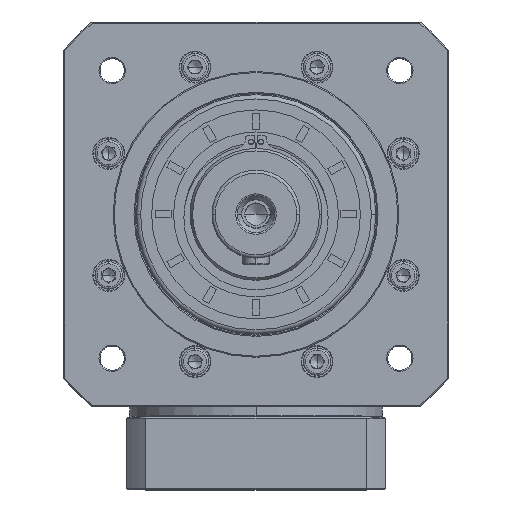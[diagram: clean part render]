
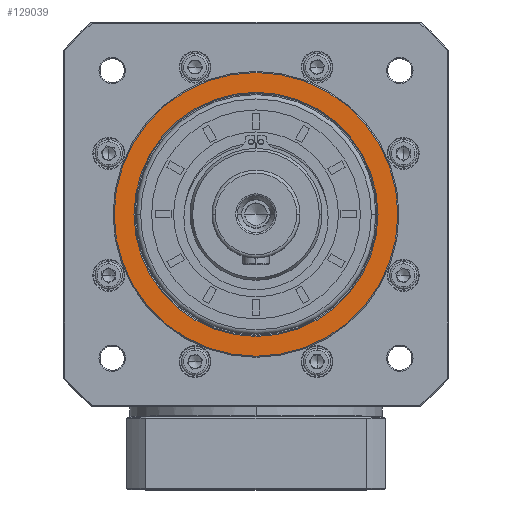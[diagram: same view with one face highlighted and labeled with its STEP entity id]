
A CAD part, top view. The second image highlights one B-rep face of the part: STEP entity #129039.
In plain terms, the highlighted planar face has unit normal (0, 0, 1).
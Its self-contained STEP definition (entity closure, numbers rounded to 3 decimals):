
#7995 = ORIENTED_EDGE ( 'NONE', *, *, #59629, .F. ) ;
#9371 = DIRECTION ( 'NONE',  ( 0., 0., -1. ) ) ;
#9806 = CARTESIAN_POINT ( 'NONE',  ( -123.259, -41.632, 242.546 ) ) ;
#12704 = DIRECTION ( 'NONE',  ( 0., 0., -1. ) ) ;
#18328 = CIRCLE ( 'NONE', #86836, 64.5 ) ;
#18888 = ORIENTED_EDGE ( 'NONE', *, *, #87164, .F. ) ;
#19539 = EDGE_CURVE ( 'NONE', #80171, #132351, #75513, .T. ) ;
#22973 = DIRECTION ( 'NONE',  ( 0., 0., 1. ) ) ;
#32686 = CARTESIAN_POINT ( 'NONE',  ( -243.259, -41.632, 242.546 ) ) ;
#34499 = DIRECTION ( 'NONE',  ( -1., 0., 0. ) ) ;
#36247 = CARTESIAN_POINT ( 'NONE',  ( -178.759, -41.632, 242.546 ) ) ;
#43133 = AXIS2_PLACEMENT_3D ( 'NONE', #131444, #94843, #107428 ) ;
#45481 = CARTESIAN_POINT ( 'NONE',  ( -178.759, -41.632, 242.546 ) ) ;
#48271 = DIRECTION ( 'NONE',  ( 0., 0., -1. ) ) ;
#55407 = AXIS2_PLACEMENT_3D ( 'NONE', #71535, #22973, #34499 ) ;
#59629 = EDGE_CURVE ( 'NONE', #138721, #156912, #18328, .T. ) ;
#71535 = CARTESIAN_POINT ( 'NONE',  ( -178.759, -41.632, 242.546 ) ) ;
#72221 = CARTESIAN_POINT ( 'NONE',  ( -178.759, -41.632, 242.546 ) ) ;
#75513 = CIRCLE ( 'NONE', #95538, 55.5 ) ;
#80171 = VERTEX_POINT ( 'NONE', #108026 ) ;
#84585 = PLANE ( 'NONE',  #55407 ) ;
#86836 = AXIS2_PLACEMENT_3D ( 'NONE', #72221, #48271, #160144 ) ;
#87164 = EDGE_CURVE ( 'NONE', #156912, #138721, #133867, .T. ) ;
#88464 = ORIENTED_EDGE ( 'NONE', *, *, #19539, .T. ) ;
#91635 = FACE_OUTER_BOUND ( 'NONE', #98615, .T. ) ;
#94843 = DIRECTION ( 'NONE',  ( 0., 0., -1. ) ) ;
#95538 = AXIS2_PLACEMENT_3D ( 'NONE', #36247, #12704, #123516 ) ;
#98615 = EDGE_LOOP ( 'NONE', ( #18888, #7995 ) ) ;
#104668 = EDGE_LOOP ( 'NONE', ( #88464, #154301 ) ) ;
#107428 = DIRECTION ( 'NONE',  ( 1., 0., 0. ) ) ;
#108026 = CARTESIAN_POINT ( 'NONE',  ( -234.259, -41.632, 242.546 ) ) ;
#116009 = EDGE_CURVE ( 'NONE', #132351, #80171, #145736, .T. ) ;
#119320 = CARTESIAN_POINT ( 'NONE',  ( -114.259, -41.632, 242.546 ) ) ;
#123516 = DIRECTION ( 'NONE',  ( -1., 0., 0. ) ) ;
#129039 = ADVANCED_FACE ( 'NONE', ( #144301, #91635 ), #84585, .T. ) ;
#131444 = CARTESIAN_POINT ( 'NONE',  ( -178.759, -41.632, 242.546 ) ) ;
#132351 = VERTEX_POINT ( 'NONE', #9806 ) ;
#133867 = CIRCLE ( 'NONE', #43133, 64.5 ) ;
#138721 = VERTEX_POINT ( 'NONE', #32686 ) ;
#144213 = DIRECTION ( 'NONE',  ( -1., 0., 0. ) ) ;
#144301 = FACE_BOUND ( 'NONE', #104668, .T. ) ;
#145736 = CIRCLE ( 'NONE', #147180, 55.5 ) ;
#147180 = AXIS2_PLACEMENT_3D ( 'NONE', #45481, #9371, #144213 ) ;
#154301 = ORIENTED_EDGE ( 'NONE', *, *, #116009, .T. ) ;
#156912 = VERTEX_POINT ( 'NONE', #119320 ) ;
#160144 = DIRECTION ( 'NONE',  ( 1., 0., 0. ) ) ;
